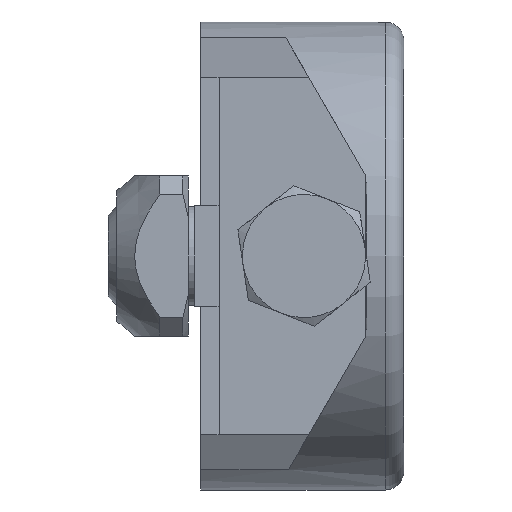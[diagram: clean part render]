
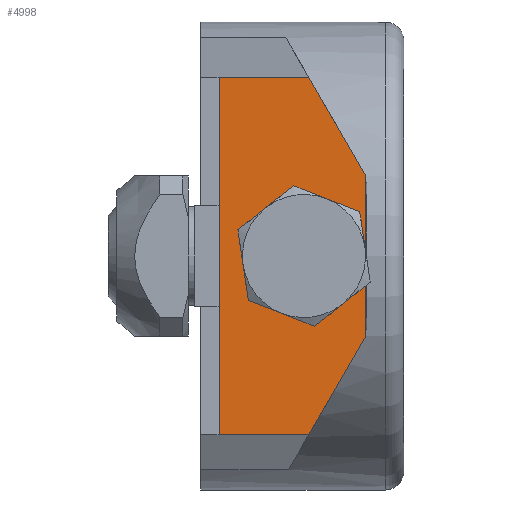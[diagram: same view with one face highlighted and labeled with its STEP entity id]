
A CAD part, left-side view. The second image highlights one B-rep face of the part: STEP entity #4998.
In plain terms, the highlighted planar face has unit normal (-1, 0, 0).
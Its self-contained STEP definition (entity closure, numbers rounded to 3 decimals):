
#32 = VERTEX_POINT ( 'NONE', #2036 ) ;
#174 = LINE ( 'NONE', #3154, #2019 ) ;
#265 = ORIENTED_EDGE ( 'NONE', *, *, #5591, .F. ) ;
#270 = CARTESIAN_POINT ( 'NONE',  ( 0., 4.1, -29. ) ) ;
#579 = EDGE_CURVE ( 'NONE', #3141, #3121, #3350, .T. ) ;
#626 = EDGE_CURVE ( 'NONE', #2149, #4617, #3772, .T. ) ;
#727 = CARTESIAN_POINT ( 'NONE',  ( 0., 8.719, 0. ) ) ;
#783 = DIRECTION ( 'NONE',  ( 0., 0., 1. ) ) ;
#865 = CARTESIAN_POINT ( 'NONE',  ( 0., 17.5, 0. ) ) ;
#1011 = ORIENTED_EDGE ( 'NONE', *, *, #2477, .F. ) ;
#1022 = CARTESIAN_POINT ( 'NONE',  ( 0., 17.5, -29. ) ) ;
#1210 = CARTESIAN_POINT ( 'NONE',  ( 0., 10.914, 3.802 ) ) ;
#1224 = LINE ( 'NONE', #270, #1478 ) ;
#1285 = PLANE ( 'NONE',  #4511 ) ;
#1287 = ORIENTED_EDGE ( 'NONE', *, *, #4148, .T. ) ;
#1414 = DIRECTION ( 'NONE',  ( 0., -1., 0. ) ) ;
#1478 = VECTOR ( 'NONE', #4583, 1000. ) ;
#1533 = CARTESIAN_POINT ( 'NONE',  ( 0., 9.1, -14.5 ) ) ;
#1634 = CARTESIAN_POINT ( 'NONE',  ( 0., 16., 0. ) ) ;
#1664 = DIRECTION ( 'NONE',  ( 0., 0., 1. ) ) ;
#1783 = CARTESIAN_POINT ( 'NONE',  ( 0., 9.1, -14.5 ) ) ;
#1856 = EDGE_CURVE ( 'NONE', #5125, #3822, #174, .T. ) ;
#1910 = DIRECTION ( 'NONE',  ( 0., -1., 0. ) ) ;
#2019 = VECTOR ( 'NONE', #3185, 1000. ) ;
#2036 = CARTESIAN_POINT ( 'NONE',  ( 0., 16., 0. ) ) ;
#2149 = VERTEX_POINT ( 'NONE', #4739 ) ;
#2164 = DIRECTION ( 'NONE',  ( -1., 0., 0. ) ) ;
#2174 = ORIENTED_EDGE ( 'NONE', *, *, #626, .T. ) ;
#2477 = EDGE_CURVE ( 'NONE', #32, #4617, #3905, .T. ) ;
#2620 = ORIENTED_EDGE ( 'NONE', *, *, #1856, .T. ) ;
#3121 = VERTEX_POINT ( 'NONE', #5031 ) ;
#3141 = VERTEX_POINT ( 'NONE', #5577 ) ;
#3154 = CARTESIAN_POINT ( 'NONE',  ( 0., -1.643, -11.052 ) ) ;
#3167 = VECTOR ( 'NONE', #1414, 1000. ) ;
#3185 = DIRECTION ( 'NONE',  ( 0., -0.5, 0.866 ) ) ;
#3219 = ORIENTED_EDGE ( 'NONE', *, *, #3559, .F. ) ;
#3237 = DIRECTION ( 'NONE',  ( 0., 0.5, 0.866 ) ) ;
#3350 = CIRCLE ( 'NONE', #5542, 2.5 ) ;
#3408 = FACE_OUTER_BOUND ( 'NONE', #3423, .T. ) ;
#3423 = EDGE_LOOP ( 'NONE', ( #1287, #2620, #3453, #2174, #1011, #265 ) ) ;
#3438 = CIRCLE ( 'NONE', #5093, 2.5 ) ;
#3453 = ORIENTED_EDGE ( 'NONE', *, *, #5498, .F. ) ;
#3521 = DIRECTION ( 'NONE',  ( -1., 0., 0. ) ) ;
#3559 = EDGE_CURVE ( 'NONE', #3121, #3141, #3438, .T. ) ;
#3772 = LINE ( 'NONE', #1210, #4611 ) ;
#3822 = VERTEX_POINT ( 'NONE', #4048 ) ;
#3882 = DIRECTION ( 'NONE',  ( 0., 0., 1. ) ) ;
#3899 = VECTOR ( 'NONE', #1910, 1000. ) ;
#3905 = LINE ( 'NONE', #4010, #3167 ) ;
#3931 = VERTEX_POINT ( 'NONE', #4086 ) ;
#4010 = CARTESIAN_POINT ( 'NONE',  ( 0., 17.5, 0. ) ) ;
#4033 = LINE ( 'NONE', #1022, #3899 ) ;
#4048 = CARTESIAN_POINT ( 'NONE',  ( 0., 4.1, -21. ) ) ;
#4086 = CARTESIAN_POINT ( 'NONE',  ( 0., 16., -29. ) ) ;
#4148 = EDGE_CURVE ( 'NONE', #3931, #5125, #4033, .T. ) ;
#4511 = AXIS2_PLACEMENT_3D ( 'NONE', #865, #2164, #3882 ) ;
#4583 = DIRECTION ( 'NONE',  ( 0., 0., -1. ) ) ;
#4611 = VECTOR ( 'NONE', #3237, 1000. ) ;
#4617 = VERTEX_POINT ( 'NONE', #727 ) ;
#4739 = CARTESIAN_POINT ( 'NONE',  ( 0., 4.1, -8. ) ) ;
#4892 = VECTOR ( 'NONE', #1664, 1000. ) ;
#4939 = ORIENTED_EDGE ( 'NONE', *, *, #579, .F. ) ;
#4975 = DIRECTION ( 'NONE',  ( -1., 0., 0. ) ) ;
#4998 = ADVANCED_FACE ( 'NONE', ( #3408, #5155 ), #1285, .T. ) ;
#5003 = CARTESIAN_POINT ( 'NONE',  ( 0., 8.719, -29. ) ) ;
#5031 = CARTESIAN_POINT ( 'NONE',  ( 0., 9.1, -12. ) ) ;
#5093 = AXIS2_PLACEMENT_3D ( 'NONE', #1783, #3521, #5266 ) ;
#5125 = VERTEX_POINT ( 'NONE', #5003 ) ;
#5155 = FACE_BOUND ( 'NONE', #5241, .T. ) ;
#5241 = EDGE_LOOP ( 'NONE', ( #3219, #4939 ) ) ;
#5266 = DIRECTION ( 'NONE',  ( 0., 0., 1. ) ) ;
#5498 = EDGE_CURVE ( 'NONE', #2149, #3822, #1224, .T. ) ;
#5542 = AXIS2_PLACEMENT_3D ( 'NONE', #1533, #4975, #783 ) ;
#5548 = LINE ( 'NONE', #1634, #4892 ) ;
#5577 = CARTESIAN_POINT ( 'NONE',  ( 0., 9.1, -17. ) ) ;
#5591 = EDGE_CURVE ( 'NONE', #3931, #32, #5548, .T. ) ;
